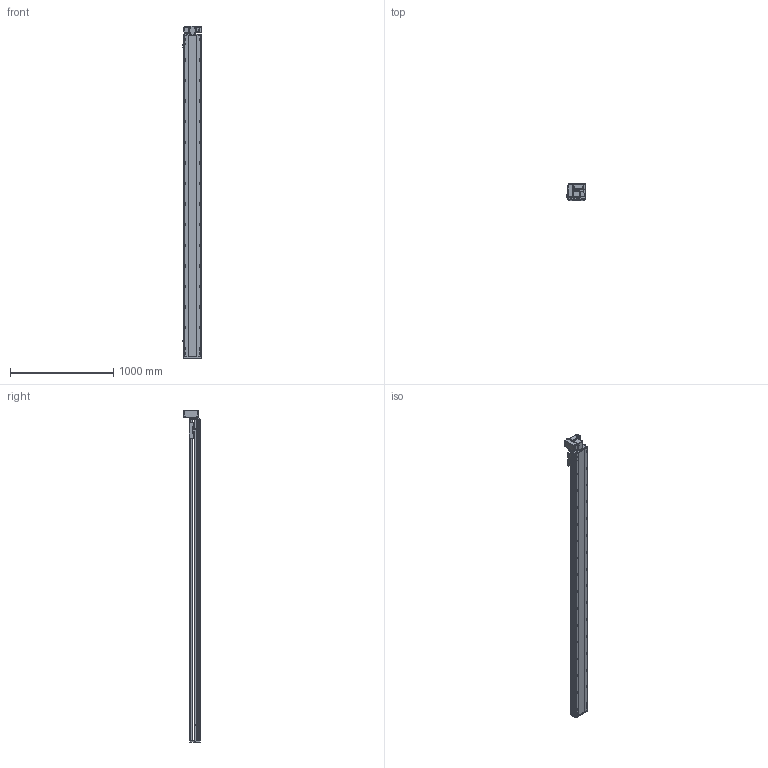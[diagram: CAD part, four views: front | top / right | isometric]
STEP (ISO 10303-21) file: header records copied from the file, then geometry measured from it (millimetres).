
FILE_DESCRIPTION (( 'STEP AP214' ), '1' );
FILE_NAME ('RTB17S-XX-2850-LW-M40-C4.STEP', '2025-12-11T07:19:41', ( '' ), ( '' ), 'SwSTEP 2.0', 'SolidWorks 2018', '' );
FILE_SCHEMA (( 'AUTOMOTIVE_DESIGN' ));
Length unit declared in the file: millimetre
Products named in the file (14): RTB14-L-008-M20--萇儂啣^RTB17S-LW-々湍釱蚾饜-400W_RTB17S-XX-XX-LW-M40-C4; RTB17S-LW-々湍釱蚾饜-400W^RTB17S-XX-XX-LW-M40-C4; RTB14-L-018P^RTB17S-LW-々湍釱蚾饜-400W_RTB17S-XX-XX-LW-M40-C4; RTH13-BL-012覜茼え俋离^RTB17S-XX-XX-LW-M40-C4; RTB14-L-005P--轴承塑胶压盖^RTB17S-LW-皮带座装配-400W_RTB17S-XX-XX-LW-M40-C4; RTB17S-L-001耜醱啣^RTB17S-XX-XX-LW-M40-C4; RTB17S-XX-2850-LW-M40-C4; RTB17S-L-007奻裔^RTB17S-XX-XX-LW-M40-C4; RTB14-L-017P^RTB17S-LW-々湍釱蚾饜-400W_RTB17S-XX-XX-LW-M40-C4; RTB17S-L-004佪裝蹟譫蟀諉釱^RTB17S-XX-XX-LW-M40-C4; RTB17S-L-014-T20--々湍釱^RTB17S-LW-々湍釱蚾饜-400W_RTB17S-XX-XX-LW-M40-C4; RTB17-R-011菁釱^RTB17S-XX-XX-LW-M40-C4; OMRON EE-SX672 传感器^RTB17S-XX-XX-LW-M40-C4; 400W侜督萇儂^RTB17S-XX-XX-LW-M40-C4
Assembly tree (16 placements, depth 3):
  RTB17S-XX-2850-LW-M40-C4
    RTB17-R-011菁釱^RTB17S-XX-XX-LW-M40-C4
    RTB17S-L-007奻裔^RTB17S-XX-XX-LW-M40-C4
    OMRON EE-SX672 传感器^RTB17S-XX-XX-LW-M40-C4  x3
    RTB17S-L-001耜醱啣^RTB17S-XX-XX-LW-M40-C4
    400W侜督萇儂^RTB17S-XX-XX-LW-M40-C4
    RTB17S-L-004佪裝蹟譫蟀諉釱^RTB17S-XX-XX-LW-M40-C4
    RTH13-BL-012覜茼え俋离^RTB17S-XX-XX-LW-M40-C4
    RTB17S-LW-々湍釱蚾饜-400W^RTB17S-XX-XX-LW-M40-C4
      RTB17S-L-014-T20--々湍釱^RTB17S-LW-々湍釱蚾饜-400W_RTB17S-XX-XX-LW-M40-C4
      RTB14-L-005P--轴承塑胶压盖^RTB17S-LW-皮带座装配-400W_RTB17S-XX-XX-LW-M40-C4
      RTB14-L-008-M20--萇儂啣^RTB17S-LW-々湍釱蚾饜-400W_RTB17S-XX-XX-LW-M40-C4
      RTB14-L-017P^RTB17S-LW-々湍釱蚾饜-400W_RTB17S-XX-XX-LW-M40-C4  x2
      RTB14-L-018P^RTB17S-LW-々湍釱蚾饜-400W_RTB17S-XX-XX-LW-M40-C4
Bounding box: 186 x 160.5 x 3222.5 mm (x, y, z)
Volume: 27455697.1 mm3; surface area: 3145052.5 mm2
Topology: 15 solids, 15 shells, 2365 faces, 6627 edges, 4329 vertices
Faces by surface type: plane 1088, cylinder 829, bspline 301, cone 139, torus 8
Entity records: 70313 total; most frequent: CARTESIAN_POINT 20032, ORIENTED_EDGE 10098, DIRECTION 9296, EDGE_CURVE 5049, VERTEX_POINT 3317, AXIS2_PLACEMENT_3D 3247, VECTOR 2802, LINE 2802
